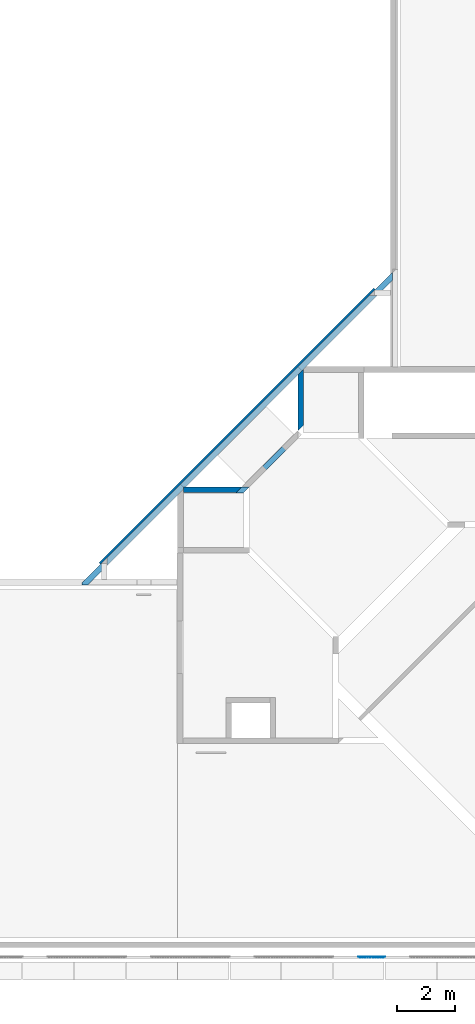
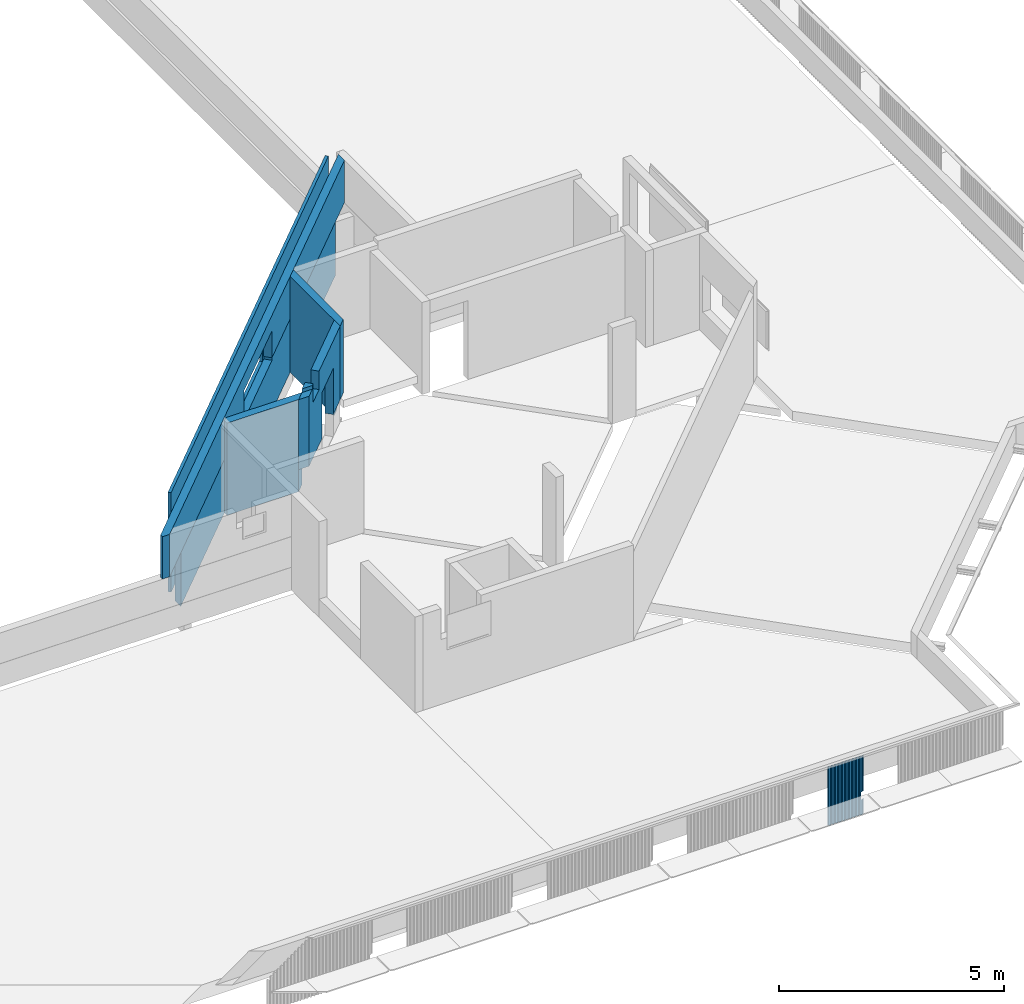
# One storey, part 25 of 37: 7 walls.
"""IFC4X3_ADD2 building model written with IfcOpenShell, lengths in millimetres."""

from ifc_helpers import new_model, si_unit, direction, frame, origin_with_axes, place, context, subcontext, project, spatial, faceted_brep, polygons, source, transform, mapped, type_object, type_shapes, element, save


model = new_model("IFC4X3_ADD2")

# Units and contexts
model_context = context("Model", 3, precision=1e-05, world=origin_with_axes(), true_north=direction((0.0, 1.0)))
body_context = subcontext(model_context, "Body", "Model", "MODEL_VIEW")
ifc_project = project(units=[si_unit("LENGTHUNIT", "METRE", prefix="MILLI"), si_unit("AREAUNIT", "SQUARE_METRE"), si_unit("VOLUMEUNIT", "CUBIC_METRE"), si_unit("PLANEANGLEUNIT", "RADIAN"), si_unit("TIMEUNIT", "SECOND"), si_unit("MASSUNIT", "GRAM")], contexts=[model_context])

# Site, building, storey
site_placement = place(None, origin_with_axes())
site = spatial("IfcSite", under=ifc_project, at=site_placement, Name="Site", CompositionType="ELEMENT")
building_placement = place(site_placement, origin_with_axes())
building = spatial("IfcBuilding", under=site, at=building_placement, Name="IFC Building Story")
storey_placement = place(building_placement, frame((0.0, 0.0, 14400.0), z_axis=(0.0, 0.0, 1.0), x_axis=(1.0, 0.0, 0.0)))
storey = spatial("IfcBuildingStorey", under=building, at=storey_placement, Name="040", Elevation=14400.0)

# Walls
wall_type = type_object("IfcWallType", Name="Basic Wall_BB_10.01_Akoestische voorzetwand atrium_ 75 mm11", PredefinedType="NOTDEFINED")
shared_shape = source(origin_with_axes(), body_context, "Body", "Brep", [
    faceted_brep([(0.0, -12.49999999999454, 2700.0), (13500.0, -12.49999999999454, 2700.0), (13500.0, 37.50000000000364, 2700.0), (0.0, 37.50000000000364, 2700.0), (13500.0, -12.49999999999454, 0.0), (13500.0, 37.50000000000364, 0.0), (0.0, -12.49999999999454, 0.0), (0.0, 37.5000000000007, 0.0), (7855.43382337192, -12.49999999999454, 949.9999999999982), (7855.43382337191, -12.49999999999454, 1749.999999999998), (7855.43382337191, 37.50000000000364, 1749.999999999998), (7855.43382337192, 37.50000000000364, 949.9999999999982), (5655.03382337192, -12.49999999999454, 1749.999999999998), (5655.03382337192, 37.50000000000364, 1749.999999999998), (5655.03382337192, -12.49999999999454, 949.9999999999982), (5655.03382337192, 37.50000000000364, 949.9999999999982)], [[[0, 1, 2, 3]], [[1, 4, 5, 2]], [[4, 6, 7, 5]], [[6, 0, 3, 7]], [[8, 9, 10, 11]], [[9, 12, 13, 10]], [[12, 14, 15, 13]], [[14, 8, 11, 15]], [[9, 8, 14, 12], [1, 0, 6, 4]], [[15, 11, 10, 13], [7, 3, 2, 5]]], outer=[[True], [True], [True], [True], [True], [True], [True], [True], [False, True], [False, True]]),
    faceted_brep([(0.0, -24.9999999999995, 0.0), (0.0, -25.0, 2700.0), (0.0, -12.49999999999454, 2700.0), (0.0, -12.49999999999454, 0.0), (13500.0, -25.0, 2700.0), (13500.0, -12.49999999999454, 2700.0), (13500.0, -25.0, 0.0), (13500.0, -12.49999999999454, 0.0), (5655.03382337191, -25.0, 949.9999999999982), (7855.43382337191, -25.0, 949.9999999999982), (7855.43382337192, -12.49999999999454, 949.9999999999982), (5655.03382337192, -12.49999999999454, 949.9999999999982), (7855.43382337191, -25.0, 1749.999999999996), (7855.43382337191, -12.49999999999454, 1749.999999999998), (5655.03382337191, -25.0, 1749.999999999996), (5655.03382337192, -12.49999999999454, 1749.999999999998)], [[[0, 1, 2, 3]], [[1, 4, 5, 2]], [[4, 6, 7, 5]], [[6, 0, 3, 7]], [[8, 9, 10, 11]], [[9, 12, 13, 10]], [[12, 14, 15, 13]], [[14, 8, 11, 15]], [[9, 8, 14, 12], [1, 0, 6, 4]], [[15, 11, 10, 13], [7, 3, 2, 5]]], outer=[[True], [True], [True], [True], [True], [True], [True], [True], [False, True], [False, True]]),
    faceted_brep([(0.0, -37.5000000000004, 0.0), (0.0, -37.49999999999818, 2700.0), (0.0, -25.0, 2700.0), (0.0, -24.9999999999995, 0.0), (13500.0, -37.49999999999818, 2700.0), (13500.0, -25.0, 2700.0), (13500.0, -37.49999999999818, 0.0), (13500.0, -25.0, 0.0), (5655.03382337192, -37.49999999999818, 949.9999999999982), (7855.43382337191, -37.49999999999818, 949.9999999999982), (7855.43382337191, -25.0, 949.9999999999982), (5655.03382337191, -25.0, 949.9999999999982), (7855.43382337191, -37.49999999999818, 1749.999999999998), (7855.43382337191, -25.0, 1749.999999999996), (5655.03382337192, -37.49999999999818, 1749.999999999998), (5655.03382337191, -25.0, 1749.999999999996)], [[[0, 1, 2, 3]], [[1, 4, 5, 2]], [[4, 6, 7, 5]], [[6, 0, 3, 7]], [[8, 9, 10, 11]], [[9, 12, 13, 10]], [[12, 14, 15, 13]], [[14, 8, 11, 15]], [[9, 8, 14, 12], [1, 0, 6, 4]], [[15, 11, 10, 13], [7, 3, 2, 5]]], outer=[[True], [True], [True], [True], [True], [True], [True], [True], [False, True], [False, True]]),
])
type_shapes(wall_type, [shared_shape])
wall_1_placement = place(storey_placement, frame((-13252.1690280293, 22805.5123180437, 230.0), z_axis=(0.0, 0.0, 1.0), x_axis=(-0.7071067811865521, -0.707106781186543, 0.0)))
element("IfcWall", 1, at=wall_1_placement, inside=storey, type_object=wall_type, Name="Basic Wall:BB_10.01_Akoestische voorzetwand atrium, 75 mm", ObjectType="Basic Wall:BB_10.01_Akoestische voorzetwand atrium, 75 mm", PredefinedType="PARTITIONING", context=body_context, shape_type="MappedRepresentation", body=[
    mapped(shared_shape, transform((0.0, 0.0, 0.0))),
])
wall_2_placement = place(storey_placement, frame((0.0, 0.0, -14400.0), z_axis=(0.0, 0.0, 1.0), x_axis=(1.0, 0.0, 0.0)))
element("IfcWall", 2, at=wall_2_placement, inside=storey, Name="Basic Wall:BB_XX_Wand uit beton, 190 mm", ObjectType="Basic Wall:BB_XX_Wand uit beton, 190 mm", PredefinedType="SOLIDWALL", context=body_context, shape_type="Tessellation", body=[
    polygons([(-15725.0, 18058.70057685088, 14200.0), (-15725.0, 19899.9999999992, 14200.0), (-15725.0, 20010.94776063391, 14200.0), (-15725.0, 20010.9477606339, 16800.0), (-15725.0, 19899.9999999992, 16800.0), (-15725.0, 17790.0, 16800.0), (-15725.0, 17790.0, 14800.0), (-15725.0, 18058.70057685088, 14800.0), (-15915.0, 17868.70057685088, 14200.0), (-15915.0, 17868.70057685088, 14800.0), (-15915.0, 17600.0, 14800.0), (-15915.0, 17600.0, 16800.0), (-15915.0, 17868.70057685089, 16800.0), (-15915.0, 19820.9477606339, 16800.0), (-15915.0, 19820.94776063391, 14200.0)], [[[2, 3, 4]], [[2, 4, 5]], [[8, 1, 2]], [[2, 5, 6]], [[2, 6, 8]], [[6, 7, 8]], [[10, 11, 12]], [[10, 12, 13]], [[10, 13, 14]], [[10, 14, 15]], [[15, 9, 10]], [[2, 1, 9]], [[2, 9, 15]], [[15, 3, 2]], [[5, 4, 14]], [[13, 12, 6]], [[6, 5, 14]], [[6, 14, 13]], [[3, 15, 14, 4]], [[7, 11, 10, 8]], [[1, 8, 10, 9]], [[7, 6, 12, 11]]]),
])
wall_3_placement = place(storey_placement, frame((0.0, 0.0, -14400.0), z_axis=(0.0, 0.0, 1.0), x_axis=(1.0, 0.0, 0.0)))
element("IfcWall", 3, at=wall_3_placement, inside=storey, Name="Basic Wall:BB_XX_Wand uit metselwerk, 190 mm", ObjectType="Basic Wall:BB_XX_Wand uit metselwerk, 190 mm", PredefinedType="SOLIDWALL", context=body_context, shape_type="Tessellation", body=[
    polygons([(-17799.99999999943, 15714.99999999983, 14800.0), (-17004.98737341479, 16510.01262658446, 14800.0), (-17004.98737341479, 16510.01262658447, 16050.0), (-16333.23593128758, 17181.76406871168, 16050.0), (-16333.23593128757, 17181.76406871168, 14800.0), (-15914.99999999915, 17600.00000000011, 14800.0), (-15914.99999999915, 17600.00000000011, 16800.0), (-17192.68619788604, 16322.31380211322, 16800.0), (-17192.68619788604, 16322.31380211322, 16299.99999999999), (-17547.98224533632, 15967.01775466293, 16299.99999999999), (-17547.98224533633, 15967.01775466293, 16800.0), (-17599.99999999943, 15914.99999999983, 16800.0), (-17599.99999999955, 15914.99999999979, 16700.0), (-17799.99999999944, 15714.99999999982, 16700.0), (-17139.33766184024, 16644.36291500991, 14800.0), (-18068.70057685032, 15714.99999999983, 14800.0), (-18068.70057685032, 15714.99999999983, 16700.0), (-17868.70057685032, 15914.99999999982, 16700.0), (-17868.70057685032, 15914.99999999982, 16800.0), (-17682.33253376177, 16101.36804308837, 16800.0), (-17682.33253376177, 16101.36804308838, 16299.99999999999), (-17327.03648631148, 16456.66409053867, 16299.99999999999), (-17327.03648631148, 16456.66409053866, 16800.0), (-15914.99999999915, 17868.700576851, 16800.0), (-15914.99999999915, 17868.700576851, 14800.0), (-16467.58621971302, 17316.11435713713, 14800.0), (-16467.58621971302, 17316.11435713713, 16050.0), (-17139.33766184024, 16644.3629150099, 16050.0)], [[[4, 5, 6]], [[4, 6, 7]], [[7, 8, 9]], [[7, 9, 3]], [[7, 3, 4]], [[13, 14, 10]], [[10, 11, 13]], [[11, 12, 13]], [[10, 14, 1]], [[1, 2, 3]], [[1, 3, 9]], [[1, 9, 10]], [[18, 19, 20]], [[27, 28, 22]], [[27, 22, 23]], [[27, 23, 24]], [[24, 25, 26]], [[24, 26, 27]], [[28, 15, 16]], [[28, 16, 21]], [[28, 21, 22]], [[16, 17, 21]], [[18, 20, 21]], [[21, 17, 18]], [[2, 1, 16, 15]], [[8, 7, 24, 23]], [[3, 2, 15, 28]], [[4, 3, 28, 27]], [[5, 4, 27, 26]], [[6, 5, 26, 25]], [[9, 8, 23, 22]], [[10, 9, 22, 21]], [[11, 10, 21, 20]], [[11, 20, 19, 12]], [[13, 18, 17, 14]], [[18, 13, 12, 19]], [[7, 6, 25, 24]], [[16, 1, 14, 17]]]),
])
wall_4_placement = place(storey_placement, frame((0.0, 0.0, -14400.0), z_axis=(0.0, 0.0, 1.0), x_axis=(1.0, 0.0, 0.0)))
element("IfcWall", 4, at=wall_4_placement, inside=storey, Name="BB_07.10_Gevelbekleding_PuntProfiel, 900 mm, console rechts_GMO:900 x 1600 mm", ObjectType="BB_07.10_Gevelbekleding_PuntProfiel, 900 mm, console rechts_GMO:900 x 1600 mm", PredefinedType="NOTDEFINED", context=body_context, shape_type="Tessellation", body=[
    polygons([(-12960.00000000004, -434.9999999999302, 14060.0), (-12960.00000000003, -433.5857864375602, 14060.0), (-12944.99999999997, -448.585786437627, 14060.0), (-12911.41421356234, -414.9999999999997, 14060.0), (-12888.58578643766, -414.9999999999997, 14060.0), (-12889.00000000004, -415.9999999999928, 14060.0), (-12910.99999999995, -415.9999999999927, 14060.0), (-12944.99999999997, -449.9999999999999, 14060.0), (-12960.00000000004, -434.9999999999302, 13860.0), (-12960.00000000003, -433.5857864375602, 13860.0), (-12944.99999999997, -449.9999999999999, 13860.0), (-12910.99999999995, -415.9999999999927, 13860.0), (-12889.00000000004, -415.9999999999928, 13860.0), (-12888.58578643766, -414.9999999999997, 13860.0), (-12911.41421356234, -414.9999999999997, 13860.0), (-12944.99999999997, -448.585786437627, 13860.0), (-13721.00000000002, -415.9999999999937, 15040.0), (-13699.00000000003, -415.9999999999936, 15040.0), (-13665.00000000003, -449.9999999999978, 15040.0), (-13631.00000000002, -415.9999999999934, 15040.0), (-13609.00000000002, -415.9999999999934, 15040.0), (-13575.00000000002, -449.9999999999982, 15040.0), (-13541.00000000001, -415.9999999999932, 15040.0), (-13519.00000000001, -415.9999999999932, 15040.0), (-13485.00000000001, -449.9999999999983, 15040.0), (-13451.0, -415.9999999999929, 15040.0), (-13429.0, -415.9999999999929, 15040.0), (-13395.00000000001, -449.9999999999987, 15040.0), (-13360.99999999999, -415.9999999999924, 15040.0), (-13338.99999999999, -415.9999999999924, 15040.0), (-13304.99999999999, -449.9999999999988, 15040.0), (-13270.99999999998, -415.9999999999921, 15040.0), (-13248.99999999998, -415.9999999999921, 15040.0), (-13214.99999999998, -449.9999999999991, 15040.0), (-13180.99999999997, -415.9999999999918, 15040.0), (-13158.99999999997, -415.9999999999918, 15040.0), (-13124.99999999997, -449.9999999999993, 15040.0), (-13090.99999999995, -415.9999999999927, 15040.0), (-13068.99999999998, -415.9999999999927, 15040.0), (-13034.99999999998, -449.9999999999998, 15040.0), (-13000.99999999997, -415.9999999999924, 15040.0), (-12978.99999999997, -415.9999999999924, 15040.0), (-12944.99999999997, -449.9999999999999, 15040.0), (-12910.99999999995, -415.9999999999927, 15040.0), (-12889.00000000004, -415.9999999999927, 15040.0), (-12888.58578643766, -414.9999999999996, 15040.0), (-12911.41421356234, -414.9999999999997, 15040.0), (-12944.99999999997, -448.585786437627, 15040.0), (-12978.5857864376, -414.9999999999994, 15040.0), (-13001.41421356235, -414.9999999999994, 15040.0), (-13034.99999999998, -448.5857864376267, 15040.0), (-13068.58578643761, -414.9999999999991, 15040.0), (-13091.41421356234, -414.9999999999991, 15040.0), (-13124.99999999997, -448.5857864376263, 15040.0), (-13158.58578643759, -414.9999999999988, 15040.0), (-13181.41421356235, -414.9999999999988, 15040.0), (-13214.99999999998, -448.5857864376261, 15040.0), (-13248.58578643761, -414.9999999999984, 15040.0), (-13271.41421356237, -414.9999999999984, 15040.0), (-13304.99999999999, -448.5857864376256, 15040.0), (-13338.58578643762, -414.9999999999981, 15040.0), (-13361.41421356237, -414.9999999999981, 15040.0), (-13395.00000000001, -448.5857864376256, 15040.0), (-13428.58578643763, -414.999999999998, 15040.0), (-13451.41421356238, -414.999999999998, 15040.0), (-13485.00000000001, -448.5857864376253, 15040.0), (-13518.58578643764, -414.9999999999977, 15040.0), (-13541.4142135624, -414.9999999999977, 15040.0), (-13575.00000000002, -448.5857864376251, 15040.0), (-13608.58578643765, -414.9999999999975, 15040.0), (-13631.4142135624, -414.9999999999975, 15040.0), (-13665.00000000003, -448.5857864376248, 15040.0), (-13698.58578643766, -414.9999999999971, 15040.0), (-13721.4142135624, -414.9999999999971, 15040.0), (-13755.00000000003, -448.5857864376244, 15040.0), (-13788.58578643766, -414.9999999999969, 15040.0), (-13811.4142135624, -414.9999999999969, 15040.0), (-13811.00000000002, -415.9999999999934, 15040.0), (-13789.00000000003, -415.9999999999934, 15040.0), (-13755.00000000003, -449.9999999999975, 15040.0), (-13721.00000000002, -415.9999999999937, 13440.0), (-13755.00000000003, -449.9999999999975, 13440.0), (-13789.00000000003, -415.9999999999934, 13440.0), (-13811.00000000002, -415.9999999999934, 13440.0), (-13811.4142135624, -414.9999999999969, 13440.0), (-13788.58578643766, -414.9999999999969, 13440.0), (-13755.00000000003, -448.5857864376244, 13440.0), (-13721.4142135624, -414.9999999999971, 13440.0), (-13698.58578643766, -414.9999999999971, 13440.0), (-13665.00000000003, -448.5857864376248, 13440.0), (-13631.4142135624, -414.9999999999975, 13440.0), (-13608.58578643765, -414.9999999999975, 13440.0), (-13575.00000000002, -448.5857864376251, 13440.0), (-13541.4142135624, -414.9999999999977, 13440.0), (-13518.58578643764, -414.9999999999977, 13440.0), (-13485.00000000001, -448.5857864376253, 13440.0), (-13451.41421356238, -414.999999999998, 13440.0), (-13428.58578643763, -414.999999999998, 13440.0), (-13395.00000000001, -448.5857864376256, 13440.0), (-13361.41421356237, -414.9999999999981, 13440.0), (-13338.58578643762, -414.9999999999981, 13440.0), (-13304.99999999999, -448.5857864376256, 13440.0), (-13271.41421356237, -414.9999999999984, 13440.0), (-13248.58578643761, -414.9999999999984, 13440.0), (-13214.99999999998, -448.5857864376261, 13440.0), (-13181.41421356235, -414.9999999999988, 13440.0), (-13158.58578643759, -414.9999999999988, 13440.0), (-13124.99999999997, -448.5857864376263, 13440.0), (-13091.41421356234, -414.9999999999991, 13440.0), (-13068.58578643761, -414.9999999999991, 13440.0), (-13034.99999999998, -448.5857864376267, 13440.0), (-13001.41421356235, -414.9999999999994, 13440.0), (-12978.5857864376, -414.9999999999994, 13440.0), (-12944.99999999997, -448.585786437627, 13440.0), (-12911.41421356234, -414.9999999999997, 13440.0), (-12888.58578643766, -414.9999999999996, 13440.0), (-12889.00000000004, -415.9999999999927, 13440.0), (-12910.99999999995, -415.9999999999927, 13440.0), (-12944.99999999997, -449.9999999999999, 13440.0), (-12978.99999999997, -415.9999999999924, 13440.0), (-13000.99999999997, -415.9999999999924, 13440.0), (-13034.99999999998, -449.9999999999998, 13440.0), (-13068.99999999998, -415.9999999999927, 13440.0), (-13090.99999999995, -415.9999999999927, 13440.0), (-13124.99999999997, -449.9999999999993, 13440.0), (-13158.99999999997, -415.9999999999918, 13440.0), (-13180.99999999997, -415.9999999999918, 13440.0), (-13214.99999999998, -449.9999999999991, 13440.0), (-13248.99999999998, -415.9999999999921, 13440.0), (-13270.99999999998, -415.9999999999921, 13440.0), (-13304.99999999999, -449.9999999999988, 13440.0), (-13338.99999999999, -415.9999999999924, 13440.0), (-13360.99999999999, -415.9999999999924, 13440.0), (-13395.00000000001, -449.9999999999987, 13440.0), (-13429.0, -415.9999999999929, 13440.0), (-13451.0, -415.9999999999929, 13440.0), (-13485.00000000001, -449.9999999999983, 13440.0), (-13519.00000000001, -415.9999999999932, 13440.0), (-13541.00000000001, -415.9999999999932, 13440.0), (-13575.00000000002, -449.9999999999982, 13440.0), (-13609.00000000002, -415.9999999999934, 13440.0), (-13631.00000000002, -415.9999999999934, 13440.0), (-13665.00000000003, -449.9999999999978, 13440.0), (-13699.00000000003, -415.9999999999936, 13440.0)], [[[7, 8, 3]], [[7, 3, 4]], [[4, 5, 6]], [[4, 6, 7]], [[8, 1, 2]], [[8, 2, 3]], [[2, 1, 9, 10]], [[12, 13, 14]], [[12, 14, 15]], [[16, 10, 9]], [[16, 9, 11]], [[11, 12, 15]], [[11, 15, 16]], [[44, 45, 46]], [[44, 46, 47]], [[48, 49, 42]], [[48, 42, 43]], [[43, 44, 47]], [[43, 47, 48]], [[49, 50, 41]], [[49, 41, 42]], [[51, 52, 39]], [[51, 39, 40]], [[40, 41, 50]], [[40, 50, 51]], [[52, 53, 38]], [[52, 38, 39]], [[54, 55, 36]], [[54, 36, 37]], [[37, 38, 53]], [[37, 53, 54]], [[55, 56, 35]], [[55, 35, 36]], [[57, 58, 33]], [[57, 33, 34]], [[34, 35, 56]], [[34, 56, 57]], [[58, 59, 32]], [[58, 32, 33]], [[60, 61, 30]], [[60, 30, 31]], [[31, 32, 59]], [[31, 59, 60]], [[61, 62, 29]], [[61, 29, 30]], [[63, 64, 27]], [[63, 27, 28]], [[28, 29, 62]], [[28, 62, 63]], [[64, 65, 26]], [[64, 26, 27]], [[66, 67, 24]], [[66, 24, 25]], [[25, 26, 65]], [[25, 65, 66]], [[67, 68, 23]], [[67, 23, 24]], [[69, 70, 21]], [[69, 21, 22]], [[22, 23, 68]], [[22, 68, 69]], [[70, 71, 20]], [[70, 20, 21]], [[72, 73, 18]], [[72, 18, 19]], [[19, 20, 71]], [[19, 71, 72]], [[73, 74, 17]], [[73, 17, 18]], [[79, 80, 75]], [[79, 75, 76]], [[76, 77, 78]], [[76, 78, 79]], [[80, 17, 74]], [[80, 74, 75]], [[83, 84, 85]], [[83, 85, 86]], [[87, 88, 81]], [[87, 81, 82]], [[82, 83, 86]], [[82, 86, 87]], [[118, 119, 114]], [[118, 114, 115]], [[115, 116, 117]], [[115, 117, 118]], [[121, 122, 111]], [[121, 111, 112]], [[112, 113, 120]], [[112, 120, 121]], [[113, 114, 119]], [[113, 119, 120]], [[124, 125, 108]], [[124, 108, 109]], [[109, 110, 123]], [[109, 123, 124]], [[110, 111, 122]], [[110, 122, 123]], [[127, 128, 105]], [[127, 105, 106]], [[106, 107, 126]], [[106, 126, 127]], [[107, 108, 125]], [[107, 125, 126]], [[130, 131, 102]], [[130, 102, 103]], [[103, 104, 129]], [[103, 129, 130]], [[104, 105, 128]], [[104, 128, 129]], [[133, 134, 99]], [[133, 99, 100]], [[100, 101, 132]], [[100, 132, 133]], [[101, 102, 131]], [[101, 131, 132]], [[136, 137, 96]], [[136, 96, 97]], [[97, 98, 135]], [[97, 135, 136]], [[98, 99, 134]], [[98, 134, 135]], [[139, 140, 93]], [[139, 93, 94]], [[94, 95, 138]], [[94, 138, 139]], [[95, 96, 137]], [[95, 137, 138]], [[142, 143, 90]], [[142, 90, 91]], [[91, 92, 141]], [[91, 141, 142]], [[92, 93, 140]], [[92, 140, 141]], [[144, 81, 88]], [[144, 88, 89]], [[89, 90, 143]], [[89, 143, 144]], [[18, 17, 81, 144]], [[19, 18, 144, 143]], [[20, 19, 143, 142]], [[21, 20, 142, 141]], [[22, 21, 141, 140]], [[23, 22, 140, 139]], [[24, 23, 139, 138]], [[25, 24, 138, 137]], [[26, 25, 137, 136]], [[27, 26, 136, 135]], [[28, 27, 135, 134]], [[29, 28, 134, 133]], [[30, 29, 133, 132]], [[31, 30, 132, 131]], [[32, 31, 131, 130]], [[33, 32, 130, 129]], [[34, 33, 129, 128]], [[35, 34, 128, 127]], [[36, 35, 127, 126]], [[37, 36, 126, 125]], [[38, 37, 125, 124]], [[54, 53, 109, 108]], [[55, 54, 108, 107]], [[56, 55, 107, 106]], [[57, 56, 106, 105]], [[58, 57, 105, 104]], [[59, 58, 104, 103]], [[60, 59, 103, 102]], [[61, 60, 102, 101]], [[62, 61, 101, 100]], [[63, 62, 100, 99]], [[64, 63, 99, 98]], [[65, 64, 98, 97]], [[66, 65, 97, 96]], [[67, 66, 96, 95]], [[68, 67, 95, 94]], [[69, 68, 94, 93]], [[70, 69, 93, 92]], [[71, 70, 92, 91]], [[72, 71, 91, 90]], [[73, 72, 90, 89]], [[74, 73, 89, 88]], [[80, 79, 83, 82]], [[17, 80, 82, 81]], [[39, 38, 124, 123]], [[40, 39, 123, 122]], [[41, 40, 122, 121]], [[42, 41, 121, 120]], [[1, 8, 43]], [[1, 43, 42]], [[42, 9, 1]], [[42, 120, 9]], [[120, 119, 11]], [[120, 11, 9]], [[44, 43, 8, 7]], [[45, 44, 7, 6]], [[47, 46, 5, 4]], [[48, 47, 4, 3]], [[10, 16, 114]], [[10, 114, 113]], [[113, 2, 10]], [[2, 113, 49]], [[49, 48, 2]], [[48, 3, 2]], [[50, 49, 113, 112]], [[51, 50, 112, 111]], [[52, 51, 111, 110]], [[53, 52, 110, 109]], [[75, 74, 88, 87]], [[76, 75, 87, 86]], [[46, 45, 6, 5]], [[77, 76, 86, 85]], [[78, 77, 85, 84]], [[79, 78, 84, 83]], [[117, 116, 14, 13]], [[115, 114, 16, 15]], [[116, 115, 15, 14]], [[118, 117, 13, 12]], [[119, 118, 12, 11]]]),
])
wall_5_placement = place(storey_placement, frame((0.0, 0.0, -14400.0), z_axis=(0.0, 0.0, 1.0), x_axis=(1.0, 0.0, 0.0)))
element("IfcWall", 5, at=wall_5_placement, inside=storey, Name="Basic Wall:BB_03.09.24#03_Wand uit metselwerk, 190 mm", ObjectType="Basic Wall:BB_03.09.24#03_Wand uit metselwerk, 190 mm", PredefinedType="SOLIDWALL", context=body_context, shape_type="Tessellation", body=[
    polygons([(-22554.85263515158, 13181.09512548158, 15650.00000030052), (-22554.85263515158, 13181.09512548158, 14200.0), (-20100.12375979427, 15635.82400083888, 14200.0), (-19900.12375979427, 15835.82400083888, 14200.0), (-19900.12375979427, 15835.82400083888, 15650.00000030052), (-13439.64833748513, 22564.9999999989, 14200.0), (-20083.58847275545, 15921.0598647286, 14200.0), (-20100.12375979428, 15904.52457768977, 14200.0), (-22554.85263515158, 13449.79570233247, 14200.0), (-22554.85263515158, 13449.79570233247, 15650.00000030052), (-20100.12375979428, 15904.52457768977, 15650.00000030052), (-20083.58847275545, 15921.0598647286, 15650.00000030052), (-18848.14989875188, 17156.49843873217, 15650.00000030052), (-18848.14989875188, 17156.49843873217, 15580.00000008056), (-17151.25230431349, 18853.39603317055, 15580.00000008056), (-17151.25230431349, 18853.39603317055, 15650.00000030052), (-13439.64833748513, 22564.9999999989, 15650.00000030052), (-13170.94776063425, 22564.9999999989, 14200.0), (-19814.88789590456, 15921.0598647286, 14200.0), (-19900.12375979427, 15921.0598647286, 14200.00000010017), (-17016.90201588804, 18719.04574474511, 15650.00000030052), (-13170.94776063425, 22564.9999999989, 15650.00000030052), (-17016.90201588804, 18719.04574474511, 15580.00000008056), (-18713.79961032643, 17022.14815030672, 15580.00000008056), (-18713.79961032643, 17022.14815030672, 15650.00000030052), (-19900.12375979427, 15921.0598647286, 15650.00000030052), (-19814.88789590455, 15921.0598647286, 15650.00000030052)], [[[3, 4, 5]], [[5, 1, 2]], [[5, 2, 3]], [[8, 9, 10]], [[8, 10, 11]], [[11, 12, 7]], [[11, 7, 8]], [[15, 16, 17]], [[15, 17, 6]], [[15, 6, 7]], [[7, 14, 15]], [[7, 12, 14]], [[12, 13, 14]], [[2, 1, 10, 9]], [[20, 4, 7]], [[20, 7, 6]], [[6, 18, 19]], [[6, 19, 20]], [[4, 8, 7]], [[3, 2, 9]], [[3, 9, 8]], [[8, 4, 3]], [[21, 22, 17, 16]], [[23, 21, 16, 15]], [[24, 23, 15, 14]], [[25, 24, 14, 13]], [[11, 10, 1]], [[11, 1, 5]], [[5, 12, 11]], [[26, 27, 25]], [[26, 25, 13]], [[13, 12, 26]], [[12, 5, 26]], [[26, 20, 19, 27]], [[22, 18, 6, 17]], [[20, 26, 5, 4]], [[24, 25, 27]], [[24, 27, 19]], [[19, 23, 24]], [[19, 18, 22]], [[19, 22, 23]], [[22, 21, 23]]]),
])
wall_6_placement = place(storey_placement, frame((0.0, 0.0, -14400.0), z_axis=(0.0, 0.0, 1.0), x_axis=(1.0, 0.0, 0.0)))
element("IfcWall", 6, at=wall_6_placement, inside=storey, Name="Basic Wall:BB_XX_Wand uit beton, 200 mm", ObjectType="Basic Wall:BB_XX_Wand uit beton, 200 mm", PredefinedType="SOLIDWALL", context=body_context, shape_type="Tessellation", body=[
    polygons([(-19900.12375979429, 15721.0598647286, 14200.0), (-18062.64071212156, 15721.0598647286, 14200.0), (-18062.64071212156, 15721.0598647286, 16700.00000000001), (-19900.1237597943, 15721.0598647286, 16700.00000000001), (-19900.1237597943, 15721.0598647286, 15650.0), (-19900.12375979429, 15921.0598647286, 14200.0), (-19900.12375979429, 15921.0598647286, 15650.0), (-19814.88789590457, 15921.0598647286, 15650.0), (-19814.88789590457, 15921.0598647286, 16700.00000000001), (-17862.64071212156, 15921.0598647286, 16700.00000000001), (-17862.64071212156, 15921.0598647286, 14200.0), (-19814.88789590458, 15921.0598647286, 14200.0), (-19900.12375979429, 15835.82400083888, 14200.0), (-19900.1237597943, 15835.82400083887, 16700.00000000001), (-19900.12375979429, 15835.82400083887, 15650.0)], [[[5, 1, 2]], [[5, 2, 3]], [[3, 4, 5]], [[8, 9, 10]], [[10, 11, 12]], [[10, 12, 8]], [[12, 6, 7]], [[12, 7, 8]], [[12, 11, 2]], [[12, 2, 13]], [[13, 6, 12]], [[2, 1, 13]], [[4, 3, 10]], [[4, 10, 9]], [[4, 9, 14]], [[2, 11, 10, 3]], [[15, 8, 7]], [[15, 7, 6]], [[15, 6, 13]], [[13, 1, 5]], [[13, 5, 15]], [[5, 4, 14, 15]], [[14, 9, 8, 15]]]),
])
wall_7_placement = place(storey_placement, frame((0.0, 0.0, -14400.0), z_axis=(0.0, 0.0, 1.0), x_axis=(1.0, 0.0, 0.0)))
element("IfcWall", 7, at=wall_7_placement, inside=storey, Name="Basic Wall:BB_03.09.24#03_Wand uit metselwerk, 190 mm", ObjectType="Basic Wall:BB_03.09.24#03_Wand uit metselwerk, 190 mm", PredefinedType="SOLIDWALL", context=body_context, shape_type="Tessellation", body=[
    polygons([(-23230.94776063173, 12505.00000000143, 15650.0), (-23040.94776063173, 12695.00000000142, 15650.0), (-19900.12375979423, 15835.82400083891, 15650.0), (-19814.8878959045, 15921.05986472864, 15650.0), (-18716.26925301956, 17019.67850761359, 15650.0), (-18716.26925301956, 17019.67850761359, 16380.00000021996), (-17019.37170075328, 18716.57605987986, 16380.00000021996), (-17019.37170075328, 18716.57605987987, 15650.0), (-12620.00406588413, 23115.94369474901, 15650.0), (-12620.00406588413, 23115.94369474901, 16800.0), (-23040.94776063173, 12695.00000000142, 16800.0), (-23230.94776063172, 12505.00000000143, 16800.0), (-17153.72198917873, 18850.92634830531, 16380.00000021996), (-18850.619541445, 17154.02879603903, 16380.00000021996), (-18850.619541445, 17154.02879603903, 15650.0), (-23416.43694862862, 12588.21138885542, 15650.0), (-23416.43694862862, 12588.21138885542, 16800.0), (-12620.00406588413, 23384.6442715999, 16800.0), (-12620.00406588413, 23384.6442715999, 15650.0), (-17153.72198917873, 18850.92634830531, 15650.0), (-23416.43694862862, 12505.00000000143, 15650.0), (-23416.43694862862, 12505.00000000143, 16800.0)], [[[7, 8, 9]], [[7, 9, 10]], [[10, 6, 7]], [[10, 11, 6]], [[11, 4, 5]], [[11, 5, 6]], [[11, 3, 4]], [[11, 2, 3]], [[11, 12, 1]], [[11, 1, 2]], [[14, 15, 16]], [[14, 16, 17]], [[17, 13, 14]], [[17, 18, 13]], [[18, 19, 20]], [[18, 20, 13]], [[2, 1, 21]], [[2, 21, 16]], [[16, 15, 3]], [[16, 3, 2]], [[15, 4, 3]], [[15, 5, 4]], [[11, 10, 18]], [[11, 18, 17]], [[17, 22, 12]], [[17, 12, 11]], [[6, 5, 15, 14]], [[7, 6, 14, 13]], [[8, 7, 13, 20]], [[9, 8, 20, 19]], [[17, 16, 21, 22]], [[1, 12, 22, 21]], [[10, 9, 19, 18]]]),
])

save(model, "model.ifc")
